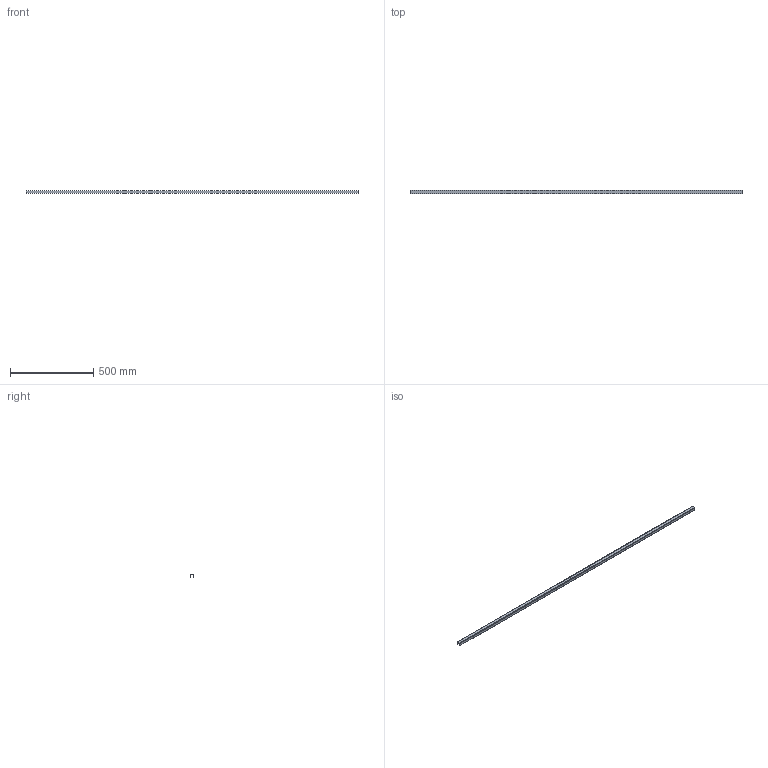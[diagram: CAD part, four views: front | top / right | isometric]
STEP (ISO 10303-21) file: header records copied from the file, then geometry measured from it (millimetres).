
FILE_DESCRIPTION( ( '' ), '1' );
FILE_NAME( '//10.120.51.241/design/Data Transfer/sunil/41251.stp', '2013-09-13T11:17:34', ( '' ), ( '' ), ' ', ' ', ' ' );
FILE_SCHEMA( ( 'automotive_design' ) );
Length unit declared in the file: millimetre
Products named in the file (1): 1
Bounding box: 2000 x 22.8 x 18 mm (x, y, z)
Volume: 160370.8 mm3; surface area: 220776.3 mm2
Topology: 1 solids, 1 shells, 18 faces, 48 edges, 32 vertices
Faces by surface type: plane 10, cylinder 8
Entity records: 1136 total; most frequent: DIRECTION 102, STYLED_ITEM 99, PRESENTATION_STYLE_ASSIGNMENT 99, CARTESIAN_POINT 99, COLOUR_RGB 99, ORIENTED_EDGE 96, EDGE_CURVE 48, CURVE_STYLE 48
